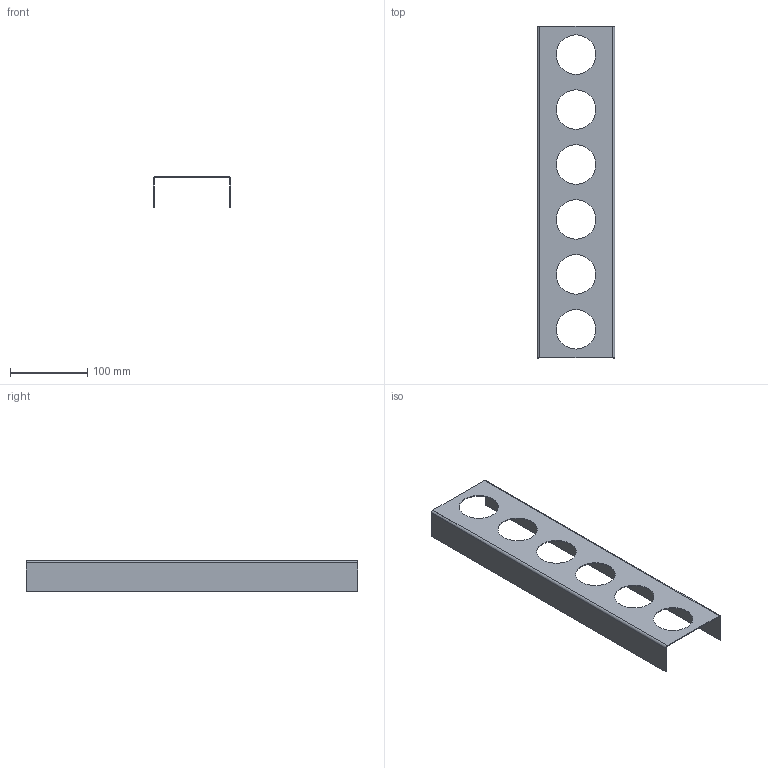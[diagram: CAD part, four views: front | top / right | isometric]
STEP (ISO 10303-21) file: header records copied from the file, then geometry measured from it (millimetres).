
FILE_DESCRIPTION (( 'STEP AP214' ), '1' );
FILE_NAME ('Gewuerzeinsatz_68310-01.STEP', '2010-10-25T13:25:54', ( 'grass' ), ( '' ), 'SwSTEP 2.0', 'SolidWorks 2010', '' );
FILE_SCHEMA (( 'AUTOMOTIVE_DESIGN' ));
Length unit declared in the file: millimetre
Products named in the file (1): Gewuerzeinsatz_68310-01
Bounding box: 100 x 429 x 40 mm (x, y, z)
Volume: 63184.4 mm3; surface area: 128539.9 mm2
Topology: 1 solids, 1 shells, 26 faces, 72 edges, 48 vertices
Faces by surface type: cylinder 16, plane 10
Entity records: 906 total; most frequent: DIRECTION 158, CARTESIAN_POINT 147, ORIENTED_EDGE 144, EDGE_CURVE 72, AXIS2_PLACEMENT_3D 59, VERTEX_POINT 48, VECTOR 40, LINE 40
